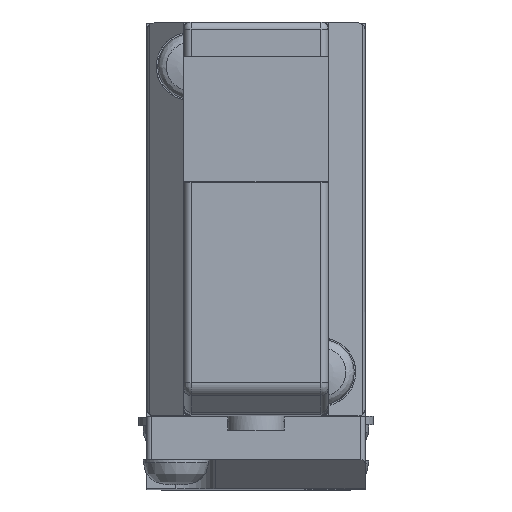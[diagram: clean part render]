
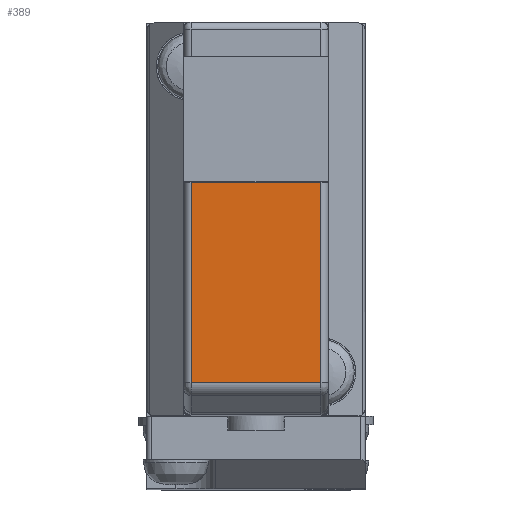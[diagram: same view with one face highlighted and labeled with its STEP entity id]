
A CAD part, top view. The second image highlights one B-rep face of the part: STEP entity #389.
In plain terms, the highlighted planar face has unit normal (0, 0, 1).
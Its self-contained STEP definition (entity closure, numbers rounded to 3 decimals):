
#389=ADVANCED_FACE('',(#3246),#3245,.F.);
#3245=PLANE('',#5593);
#3246=FACE_OUTER_BOUND('',#5594,.T.);
#5590=CARTESIAN_POINT('',(5.34,-51.833,71.5));
#5591=DIRECTION('',(0.,0.,-1.));
#5592=DIRECTION('',(-1.,0.,0.));
#5593=AXIS2_PLACEMENT_3D('',#5590,#5591,#5592);
#5594=EDGE_LOOP('',(#7372,#7373,#7374,#7375));
#7372=ORIENTED_EDGE('',*,*,#8205,.F.);
#7373=ORIENTED_EDGE('',*,*,#8259,.T.);
#7374=ORIENTED_EDGE('',*,*,#8348,.T.);
#7375=ORIENTED_EDGE('',*,*,#8282,.T.);
#8205=EDGE_CURVE('',#12495,#12502,#12503,.T.);
#8259=EDGE_CURVE('',#12495,#12863,#12870,.T.);
#8282=EDGE_CURVE('',#13001,#12502,#13020,.T.);
#8348=EDGE_CURVE('',#12863,#13001,#13449,.T.);
#12495=VERTEX_POINT('',#16556);
#12502=VERTEX_POINT('',#16561);
#12503=LINE('',#16562,#16563);
#12863=VERTEX_POINT('',#16785);
#12870=LINE('',#16790,#16791);
#13001=VERTEX_POINT('',#16873);
#13020=LINE('',#16886,#16887);
#13449=LINE('',#17124,#17125);
#16556=CARTESIAN_POINT('',(-4.45,-36.7,71.5));
#16561=CARTESIAN_POINT('',(4.45,-36.7,71.5));
#16562=CARTESIAN_POINT('',(-4.45,-36.7,71.5));
#16563=VECTOR('',#16564,8.9);
#16564=DIRECTION('',(1.,0.,0.));
#16785=CARTESIAN_POINT('',(-4.45,-50.458,71.5));
#16790=CARTESIAN_POINT('',(-4.45,-36.7,71.5));
#16791=VECTOR('',#16792,13.758);
#16792=DIRECTION('',(0.,-1.,0.));
#16873=CARTESIAN_POINT('',(4.45,-50.458,71.5));
#16886=CARTESIAN_POINT('',(4.45,-50.458,71.5));
#16887=VECTOR('',#16888,13.758);
#16888=DIRECTION('',(0.,1.,0.));
#17124=CARTESIAN_POINT('',(-4.45,-50.458,71.5));
#17125=VECTOR('',#17126,8.9);
#17126=DIRECTION('',(1.,0.,0.));
